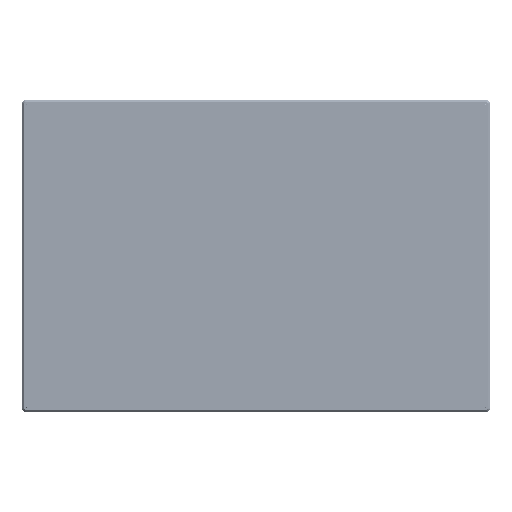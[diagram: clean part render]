
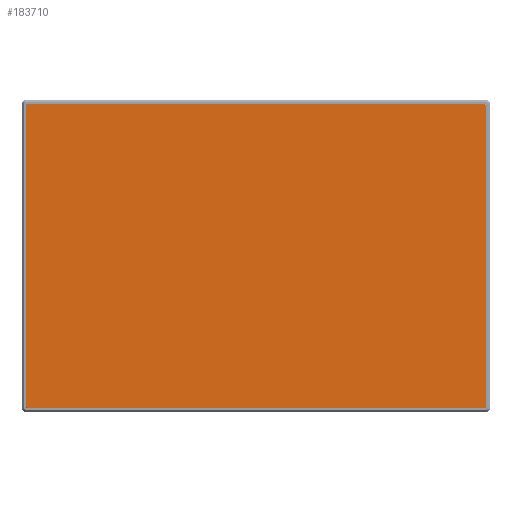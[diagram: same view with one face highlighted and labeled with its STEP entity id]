
A CAD part, top view. The second image highlights one B-rep face of the part: STEP entity #183710.
In plain terms, the highlighted planar face has unit normal (0, 0, 1).
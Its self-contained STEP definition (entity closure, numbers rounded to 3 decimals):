
#20657=DIRECTION('',(-1.,0.,0.));
#20658=VECTOR('',#20657,249.7);
#20659=CARTESIAN_POINT('',(124.85,-82.55,0.));
#20660=LINE('',#20659,#20658);
#20674=DIRECTION('',(0.,1.,0.));
#20675=VECTOR('',#20674,164.7);
#20676=CARTESIAN_POINT('',(-125.05,-82.35,0.));
#20677=LINE('',#20676,#20675);
#20691=DIRECTION('',(1.,0.,0.));
#20692=VECTOR('',#20691,249.7);
#20693=CARTESIAN_POINT('',(-124.85,82.55,0.));
#20694=LINE('',#20693,#20692);
#20708=DIRECTION('',(0.,-1.,0.));
#20709=VECTOR('',#20708,164.7);
#20710=CARTESIAN_POINT('',(125.05,82.35,0.));
#20711=LINE('',#20710,#20709);
#20725=CARTESIAN_POINT('',(-124.85,82.35,0.));
#20726=DIRECTION('',(0.,0.,1.));
#20727=DIRECTION('',(0.,1.,0.));
#20728=AXIS2_PLACEMENT_3D('',#20725,#20726,#20727);
#20730=CARTESIAN_POINT('',(124.85,82.35,0.));
#20731=DIRECTION('',(0.,0.,1.));
#20732=DIRECTION('',(1.,0.,0.));
#20733=AXIS2_PLACEMENT_3D('',#20730,#20731,#20732);
#20735=CARTESIAN_POINT('',(124.85,-82.35,0.));
#20736=DIRECTION('',(0.,0.,1.));
#20737=DIRECTION('',(0.,-1.,0.));
#20738=AXIS2_PLACEMENT_3D('',#20735,#20736,#20737);
#20740=CARTESIAN_POINT('',(-124.85,-82.35,0.));
#20741=DIRECTION('',(0.,0.,1.));
#20742=DIRECTION('',(-1.,0.,0.));
#20743=AXIS2_PLACEMENT_3D('',#20740,#20741,#20742);
#120911=CARTESIAN_POINT('',(-124.85,82.55,0.));
#120912=CARTESIAN_POINT('',(-125.05,82.35,0.));
#120913=VERTEX_POINT('',#120911);
#120914=VERTEX_POINT('',#120912);
#120915=CARTESIAN_POINT('',(124.85,82.55,0.));
#120916=VERTEX_POINT('',#120915);
#120917=CARTESIAN_POINT('',(125.05,82.35,0.));
#120918=VERTEX_POINT('',#120917);
#120919=CARTESIAN_POINT('',(125.05,-82.35,0.));
#120920=VERTEX_POINT('',#120919);
#120921=CARTESIAN_POINT('',(124.85,-82.55,0.));
#120922=VERTEX_POINT('',#120921);
#120923=CARTESIAN_POINT('',(-124.85,-82.55,0.));
#120924=VERTEX_POINT('',#120923);
#120925=CARTESIAN_POINT('',(-125.05,-82.35,0.));
#120926=VERTEX_POINT('',#120925);
#183695=CARTESIAN_POINT('',(0.,0.,0.));
#183696=DIRECTION('',(0.,0.,1.));
#183697=DIRECTION('',(1.,0.,0.));
#183698=AXIS2_PLACEMENT_3D('',#183695,#183696,#183697);
#183699=PLANE('',#183698);
#183700=ORIENTED_EDGE('',*,*,#183619,.T.);
#183701=ORIENTED_EDGE('',*,*,#183633,.F.);
#183702=ORIENTED_EDGE('',*,*,#183647,.T.);
#183703=ORIENTED_EDGE('',*,*,#183661,.F.);
#183704=ORIENTED_EDGE('',*,*,#183675,.T.);
#183705=ORIENTED_EDGE('',*,*,#183688,.F.);
#183706=ORIENTED_EDGE('',*,*,#183590,.T.);
#183707=ORIENTED_EDGE('',*,*,#183605,.F.);
#183708=EDGE_LOOP('',(#183700,#183701,#183702,#183703,#183704,#183705,#183706,
#183707));
#183709=FACE_OUTER_BOUND('',#183708,.F.);
#183710=ADVANCED_FACE('',(#183709),#183699,.T.);
#20729=CIRCLE('',#20728,0.2);
#20734=CIRCLE('',#20733,0.2);
#20739=CIRCLE('',#20738,0.2);
#20744=CIRCLE('',#20743,0.2);
#183590=EDGE_CURVE('',#120922,#120924,#20660,.T.);
#183605=EDGE_CURVE('',#120926,#120924,#20744,.T.);
#183619=EDGE_CURVE('',#120926,#120914,#20677,.T.);
#183633=EDGE_CURVE('',#120913,#120914,#20729,.T.);
#183647=EDGE_CURVE('',#120913,#120916,#20694,.T.);
#183661=EDGE_CURVE('',#120918,#120916,#20734,.T.);
#183675=EDGE_CURVE('',#120918,#120920,#20711,.T.);
#183688=EDGE_CURVE('',#120922,#120920,#20739,.T.);
